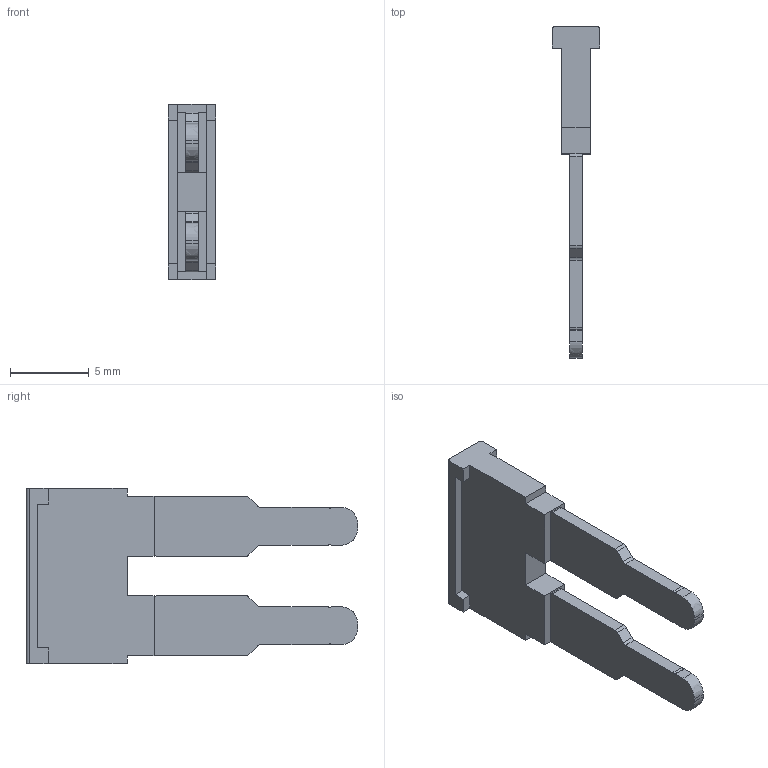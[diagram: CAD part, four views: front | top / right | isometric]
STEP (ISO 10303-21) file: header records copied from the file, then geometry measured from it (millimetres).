
FILE_DESCRIPTION(('Creo Elements/Direct Modeling STEP Export'),'2;1');
FILE_NAME('EFB0402R.stp','2019-07-26T14:38:54',(''),(''),'Creo Elements/Direct Modeling STEP processor for AP214 (Solid Model)','Creo Elements/Direct Modeling 20.1 10-Mar-2018 (C) Parametric Technology GmbH','');
FILE_SCHEMA(('AUTOMOTIVE_DESIGN { 1 0 10303 214 1 1 1 1 }'));
Length unit declared in the file: millimetre
Products named in the file (2): EFB0402R
Assembly tree (1 placements, depth 2):
  EFB0402R
    EFB0402R
Bounding box: 3 x 21.01 x 11.1 mm (x, y, z)
Volume: 224.7 mm3; surface area: 468.9 mm2
Topology: 1 solids, 1 shells, 82 faces, 234 edges, 156 vertices
Faces by surface type: plane 56, cylinder 18, extrusion 8
Entity records: 3049 total; most frequent: CARTESIAN_POINT 600, ORIENTED_EDGE 468, DIRECTION 410, EDGE_CURVE 234, VECTOR 190, LINE 182, VERTEX_POINT 156, AXIS2_PLACEMENT_3D 110
